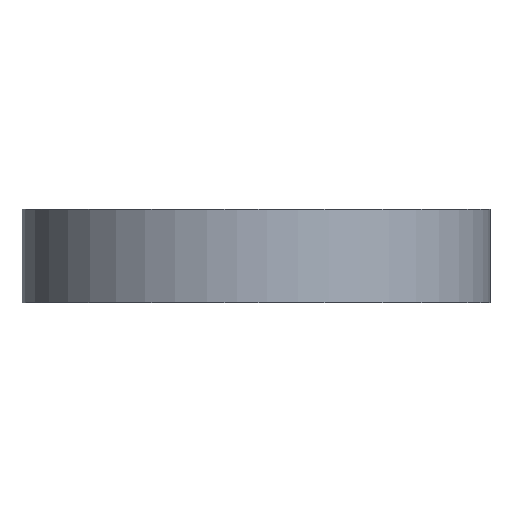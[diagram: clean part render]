
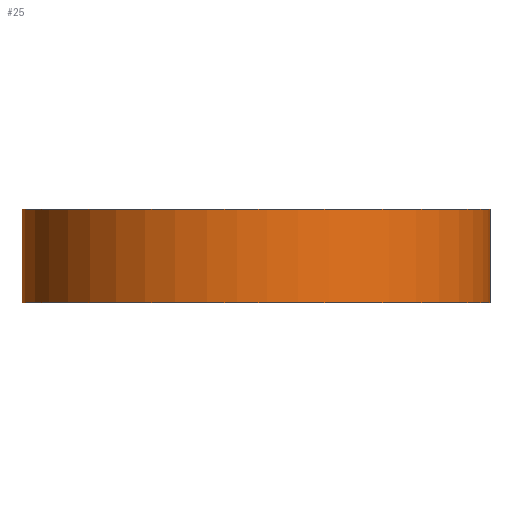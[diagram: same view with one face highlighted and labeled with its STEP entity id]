
A CAD part, front view. The second image highlights one B-rep face of the part: STEP entity #25.
In plain terms, the highlighted free-form (B-spline) face has degree [1, 2] with [2, 5] control points.
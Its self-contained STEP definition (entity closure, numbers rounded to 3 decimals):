
#25=ADVANCED_FACE('',(#33),#102,.T.);
#33=FACE_OUTER_BOUND('',#40,.T.);
#40=EDGE_LOOP('',(#50,#51,#52,#53));
#50=ORIENTED_EDGE('',*,*,#77,.T.);
#51=ORIENTED_EDGE('',*,*,#72,.T.);
#52=ORIENTED_EDGE('',*,*,#78,.F.);
#53=ORIENTED_EDGE('',*,*,#76,.F.);
#72=EDGE_CURVE('',#94,#96,#82,.T.);
#76=EDGE_CURVE('',#98,#99,#84,.T.);
#77=EDGE_CURVE('',#98,#94,#90,.T.);
#78=EDGE_CURVE('',#99,#96,#91,.T.);
#82=B_SPLINE_CURVE_WITH_KNOTS('',1,(#198,#199),.UNSPECIFIED.,.F.,.F.,(2,
2),(0.,40.),.UNSPECIFIED.);
#84=B_SPLINE_CURVE_WITH_KNOTS('',1,(#212,#213),.UNSPECIFIED.,.F.,.F.,(2,
2),(0.,40.),.UNSPECIFIED.);
#90=(
BOUNDED_CURVE()
B_SPLINE_CURVE(2,(#214,#215,#216,#217,#218),.UNSPECIFIED.,.F.,.F.)
B_SPLINE_CURVE_WITH_KNOTS((3,2,3),(314.159,471.239,628.319),
 .UNSPECIFIED.)
CURVE()
GEOMETRIC_REPRESENTATION_ITEM()
RATIONAL_B_SPLINE_CURVE((1.,0.707,1.,0.707,1.))
REPRESENTATION_ITEM('')
);
#91=(
BOUNDED_CURVE()
B_SPLINE_CURVE(2,(#219,#220,#221,#222,#223),.UNSPECIFIED.,.F.,.F.)
B_SPLINE_CURVE_WITH_KNOTS((3,2,3),(314.159,471.239,628.319),
 .UNSPECIFIED.)
CURVE()
GEOMETRIC_REPRESENTATION_ITEM()
RATIONAL_B_SPLINE_CURVE((1.,0.707,1.,0.707,1.))
REPRESENTATION_ITEM('')
);
#94=VERTEX_POINT('',#180);
#96=VERTEX_POINT('',#182);
#98=VERTEX_POINT('',#184);
#99=VERTEX_POINT('',#185);
#102=(
BOUNDED_SURFACE()
B_SPLINE_SURFACE(1,2,((#139,#140,#141,#142,#143),(#144,#145,#146,#147,#148)),
 .UNSPECIFIED.,.F.,.F.,.F.)
B_SPLINE_SURFACE_WITH_KNOTS((2,2),(3,2,3),(0.,40.),(-628.319,-471.239,
-314.159),.UNSPECIFIED.)
GEOMETRIC_REPRESENTATION_ITEM()
RATIONAL_B_SPLINE_SURFACE(((1.,0.707,1.,0.707,1.),
(1.,0.707,1.,0.707,1.)))
REPRESENTATION_ITEM('')
SURFACE()
);
#139=CARTESIAN_POINT('',(100.,0.,10.));
#140=CARTESIAN_POINT('',(100.,-100.,10.));
#141=CARTESIAN_POINT('',(0.,-100.,10.));
#142=CARTESIAN_POINT('',(-100.,-100.,10.));
#143=CARTESIAN_POINT('',(-100.,0.,10.));
#144=CARTESIAN_POINT('',(100.,0.,50.));
#145=CARTESIAN_POINT('',(100.,-100.,50.));
#146=CARTESIAN_POINT('',(0.,-100.,50.));
#147=CARTESIAN_POINT('',(-100.,-100.,50.));
#148=CARTESIAN_POINT('',(-100.,0.,50.));
#180=CARTESIAN_POINT('',(100.,0.,10.));
#182=CARTESIAN_POINT('',(100.,0.,50.));
#184=CARTESIAN_POINT('',(-100.,0.,10.));
#185=CARTESIAN_POINT('',(-100.,0.,50.));
#198=CARTESIAN_POINT('',(100.,0.,10.));
#199=CARTESIAN_POINT('',(100.,0.,50.));
#212=CARTESIAN_POINT('',(-100.,0.,10.));
#213=CARTESIAN_POINT('',(-100.,0.,50.));
#214=CARTESIAN_POINT('',(-100.,0.,10.));
#215=CARTESIAN_POINT('',(-100.,-100.,10.));
#216=CARTESIAN_POINT('',(0.,-100.,10.));
#217=CARTESIAN_POINT('',(100.,-100.,10.));
#218=CARTESIAN_POINT('',(100.,0.,10.));
#219=CARTESIAN_POINT('',(-100.,0.,50.));
#220=CARTESIAN_POINT('',(-100.,-100.,50.));
#221=CARTESIAN_POINT('',(0.,-100.,50.));
#222=CARTESIAN_POINT('',(100.,-100.,50.));
#223=CARTESIAN_POINT('',(100.,0.,50.));
